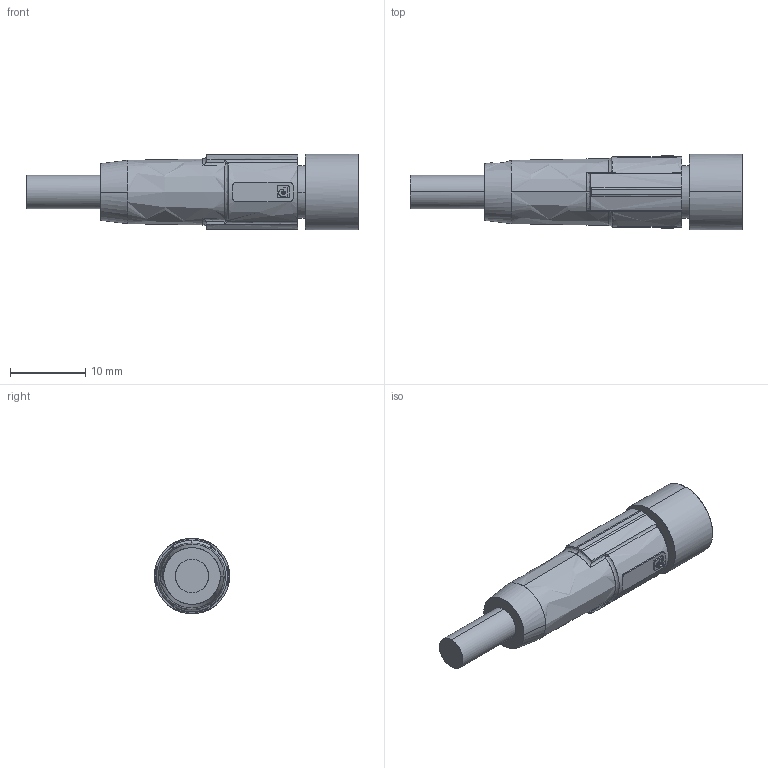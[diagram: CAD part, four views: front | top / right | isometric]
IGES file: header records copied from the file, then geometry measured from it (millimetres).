
Start section: Comment
Global section: file name: ESG 32AHxxxxG.igs; native system:  By UGS Corp.; preprocessor: XPlus GENERIC/IGES 3.0; author: Author; organization: Title; date: 20101124.082640; units: millimetre
Bounding box: 44 x 9.99 x 10 mm (x, y, z)
Surface area: 1611.8 mm2 (no closed solid volume)
Topology: 0 solids, 0 shells, 172 faces, 1958 edges, 1958 vertices
Faces by surface type: bspline 172
